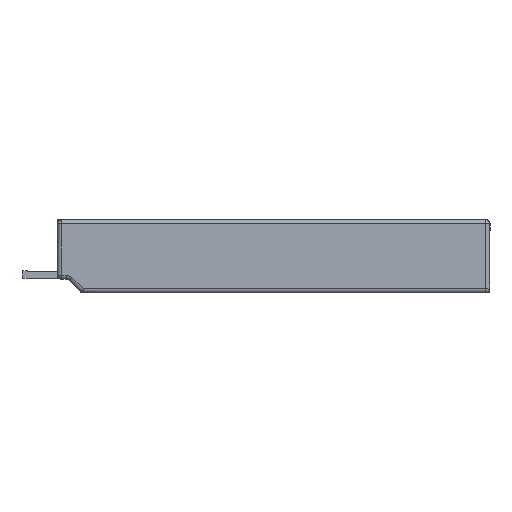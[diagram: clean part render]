
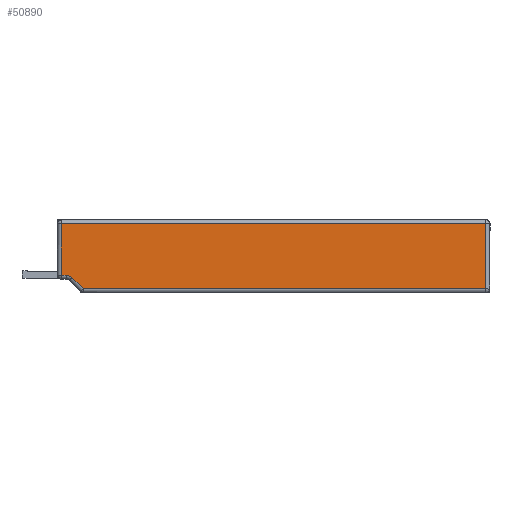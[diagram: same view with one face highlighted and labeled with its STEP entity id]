
A CAD part, left-side view. The second image highlights one B-rep face of the part: STEP entity #50890.
In plain terms, the highlighted planar face has unit normal (-1, 0, 0).
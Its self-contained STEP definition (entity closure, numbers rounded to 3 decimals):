
#1425 = CIRCLE ( 'NONE', #1428, 2.009 ) ;
#1426 = VECTOR ( 'NONE', #5859, 1000. ) ;
#1427 = VECTOR ( 'NONE', #5863, 1000. ) ;
#1428 = AXIS2_PLACEMENT_3D ( 'NONE', #5856, #5857, #5858 ) ;
#1433 = VECTOR ( 'NONE', #5867, 1000. ) ;
#4160 = CARTESIAN_POINT ( 'NONE',  ( 0., 1.009, 17.391 ) ) ;
#4215 = CARTESIAN_POINT ( 'NONE',  ( 0., 107.743, 4.309 ) ) ;
#4303 = CARTESIAN_POINT ( 'NONE',  ( 0., 1.009, 0.809 ) ) ;
#4336 = CARTESIAN_POINT ( 'NONE',  ( 0., 103.411, 0.809 ) ) ;
#4345 = CARTESIAN_POINT ( 'NONE',  ( 0., 108.991, 17.391 ) ) ;
#4348 = CARTESIAN_POINT ( 'NONE',  ( 0., 108.991, 4.309 ) ) ;
#4675 = CARTESIAN_POINT ( 'NONE',  ( 0., 106.322, 3.72 ) ) ;
#5846 = CARTESIAN_POINT ( 'NONE',  ( 0., 108.991, -0.2 ) ) ;
#5850 = LINE ( 'NONE', #5846, #1433 ) ;
#5854 = CARTESIAN_POINT ( 'NONE',  ( 0., 104.112, 1.51 ) ) ;
#5855 = LINE ( 'NONE', #5854, #1426 ) ;
#5856 = CARTESIAN_POINT ( 'NONE',  ( 0., 107.743, 2.3 ) ) ;
#5857 = DIRECTION ( 'NONE',  ( 1., 0., 0. ) ) ;
#5858 = DIRECTION ( 'NONE',  ( 0., -1., 0. ) ) ;
#5859 = DIRECTION ( 'NONE',  ( 0., -0.707, -0.707 ) ) ;
#5860 = LINE ( 'NONE', #5862, #1427 ) ;
#5862 = CARTESIAN_POINT ( 'NONE',  ( 0., 110., 17.391 ) ) ;
#5863 = DIRECTION ( 'NONE',  ( 0., 1., 0. ) ) ;
#5867 = DIRECTION ( 'NONE',  ( 0., 0., -1. ) ) ;
#8161 = AXIS2_PLACEMENT_3D ( 'NONE', #45623, #45624, #45625 ) ;
#10871 = LINE ( 'NONE', #10876, #20611 ) ;
#10876 = CARTESIAN_POINT ( 'NONE',  ( 0., 110., 0.809 ) ) ;
#10879 = DIRECTION ( 'NONE',  ( 0., -1., 0. ) ) ;
#10881 = LINE ( 'NONE', #10884, #20612 ) ;
#10884 = CARTESIAN_POINT ( 'NONE',  ( 0., 1.009, -0.2 ) ) ;
#10886 = DIRECTION ( 'NONE',  ( 0., 0., 1. ) ) ;
#10887 = LINE ( 'NONE', #10889, #20614 ) ;
#10889 = CARTESIAN_POINT ( 'NONE',  ( 0., 107.743, 4.309 ) ) ;
#10890 = DIRECTION ( 'NONE',  ( 0., -1., 0. ) ) ;
#12567 = ORIENTED_EDGE ( 'NONE', *, *, #49358, .T. ) ;
#12568 = ORIENTED_EDGE ( 'NONE', *, *, #49363, .T. ) ;
#12569 = ORIENTED_EDGE ( 'NONE', *, *, #50645, .T. ) ;
#12570 = ORIENTED_EDGE ( 'NONE', *, *, #50646, .T. ) ;
#12573 = ORIENTED_EDGE ( 'NONE', *, *, #49365, .T. ) ;
#12574 = ORIENTED_EDGE ( 'NONE', *, *, #49372, .T. ) ;
#12575 = ORIENTED_EDGE ( 'NONE', *, *, #50647, .T. ) ;
#20611 = VECTOR ( 'NONE', #10879, 1000. ) ;
#20612 = VECTOR ( 'NONE', #10886, 1000. ) ;
#20614 = VECTOR ( 'NONE', #10890, 1000. ) ;
#24651 = VERTEX_POINT ( 'NONE', #4215 ) ;
#24655 = VERTEX_POINT ( 'NONE', #4675 ) ;
#24667 = VERTEX_POINT ( 'NONE', #4336 ) ;
#24670 = VERTEX_POINT ( 'NONE', #4303 ) ;
#24671 = VERTEX_POINT ( 'NONE', #4160 ) ;
#24675 = VERTEX_POINT ( 'NONE', #4345 ) ;
#24677 = VERTEX_POINT ( 'NONE', #4348 ) ;
#45612 = FACE_OUTER_BOUND ( 'NONE', #48971, .T. ) ;
#45613 = PLANE ( 'NONE',  #8161 ) ;
#45623 = CARTESIAN_POINT ( 'NONE',  ( 0., 110., -0.2 ) ) ;
#45624 = DIRECTION ( 'NONE',  ( -1., 0., 0. ) ) ;
#45625 = DIRECTION ( 'NONE',  ( 0., -1., 0. ) ) ;
#48971 = EDGE_LOOP ( 'NONE', ( #12567, #12568, #12569, #12570, #12573, #12574, #12575 ) ) ;
#49358 = EDGE_CURVE ( 'NONE', #24651, #24655, #1425, .T. ) ;
#49363 = EDGE_CURVE ( 'NONE', #24655, #24667, #5855, .T. ) ;
#49365 = EDGE_CURVE ( 'NONE', #24671, #24675, #5860, .T. ) ;
#49372 = EDGE_CURVE ( 'NONE', #24675, #24677, #5850, .T. ) ;
#50645 = EDGE_CURVE ( 'NONE', #24667, #24670, #10871, .T. ) ;
#50646 = EDGE_CURVE ( 'NONE', #24670, #24671, #10881, .T. ) ;
#50647 = EDGE_CURVE ( 'NONE', #24677, #24651, #10887, .T. ) ;
#50890 = ADVANCED_FACE ( 'NONE', ( #45612 ), #45613, .T. ) ;
